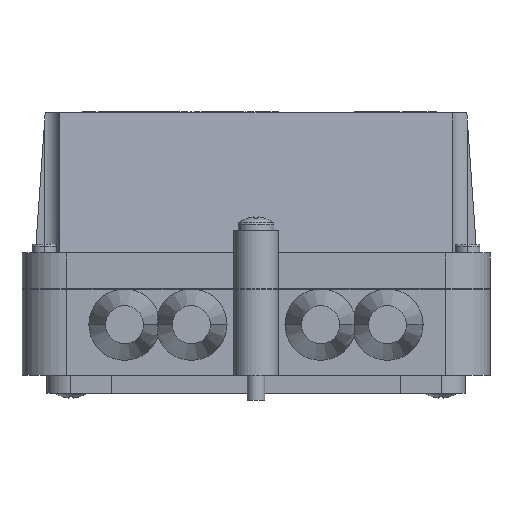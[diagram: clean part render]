
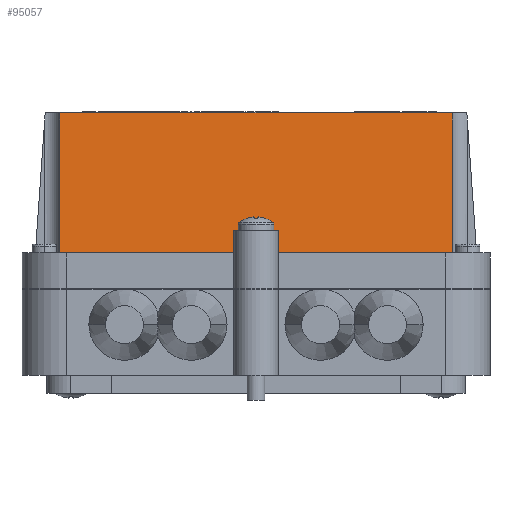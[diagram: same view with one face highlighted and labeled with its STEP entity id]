
A CAD part, front view. The second image highlights one B-rep face of the part: STEP entity #95057.
In plain terms, the highlighted planar face has unit normal (0, -0.998, 0.07) as drawn and (0, 0.07, 0.998) by its records, which use the part's own axes.
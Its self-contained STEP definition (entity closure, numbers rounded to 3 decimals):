
#891 = ORIENTED_EDGE ( 'NONE', *, *, #8117, .T. ) ;
#5105 = CARTESIAN_POINT ( 'NONE',  ( -5., 27.5, 54.5 ) ) ;
#5286 = LINE ( 'NONE', #164670, #119606 ) ;
#8117 = EDGE_CURVE ( 'NONE', #17711, #123616, #129327, .T. ) ;
#10150 = VERTEX_POINT ( 'NONE', #106241 ) ;
#11284 = VECTOR ( 'NONE', #70850, 1000. ) ;
#16418 = EDGE_CURVE ( 'NONE', #10150, #179173, #55043, .T. ) ;
#16756 = LINE ( 'NONE', #130831, #152606 ) ;
#17711 = VERTEX_POINT ( 'NONE', #79082 ) ;
#18702 = CARTESIAN_POINT ( 'NONE',  ( 44.006, 59., 52.297 ) ) ;
#19698 = CARTESIAN_POINT ( 'NONE',  ( -44.002, 58.035, 52.365 ) ) ;
#19998 = EDGE_CURVE ( 'NONE', #126766, #179173, #52845, .T. ) ;
#20488 = VECTOR ( 'NONE', #180609, 1000. ) ;
#23594 = DIRECTION ( 'NONE',  ( 0., 0.998, -0.07 ) ) ;
#24100 = CARTESIAN_POINT ( 'NONE',  ( 44.006, 59., 52.297 ) ) ;
#24852 = DIRECTION ( 'NONE',  ( 0., 0.998, -0.07 ) ) ;
#28981 = PLANE ( 'NONE',  #30655 ) ;
#29998 = DIRECTION ( 'NONE',  ( 1., 0., 0. ) ) ;
#30655 = AXIS2_PLACEMENT_3D ( 'NONE', #46825, #174499, #29998 ) ;
#31571 = ORIENTED_EDGE ( 'NONE', *, *, #53162, .F. ) ;
#38041 = CARTESIAN_POINT ( 'NONE',  ( 5., 32.5, 54.15 ) ) ;
#45433 = EDGE_CURVE ( 'NONE', #133685, #173323, #99676, .T. ) ;
#46825 = CARTESIAN_POINT ( 'NONE',  ( -49.5, 27.5, 54.5 ) ) ;
#52845 = LINE ( 'NONE', #104594, #11284 ) ;
#53162 = EDGE_CURVE ( 'NONE', #133685, #181239, #16756, .T. ) ;
#55043 = LINE ( 'NONE', #132154, #20488 ) ;
#57970 = CARTESIAN_POINT ( 'NONE',  ( 44., 57.068, 52.432 ) ) ;
#58705 = CARTESIAN_POINT ( 'NONE',  ( 5., 27.5, 54.5 ) ) ;
#69862 = DIRECTION ( 'NONE',  ( 0., -0.998, 0.07 ) ) ;
#70850 = DIRECTION ( 'NONE',  ( 0., -0.998, 0.07 ) ) ;
#73698 = DIRECTION ( 'NONE',  ( 1., 0., 0. ) ) ;
#75063 = CARTESIAN_POINT ( 'NONE',  ( -5., 32.5, 54.15 ) ) ;
#79082 = CARTESIAN_POINT ( 'NONE',  ( 44., 27.5, 54.5 ) ) ;
#80538 = CARTESIAN_POINT ( 'NONE',  ( 5., 27.5, 54.5 ) ) ;
#89606 = LINE ( 'NONE', #152778, #109046 ) ;
#91306 = VECTOR ( 'NONE', #24852, 1000. ) ;
#95057 = ADVANCED_FACE ( 'NONE', ( #175570 ), #28981, .T. ) ;
#99576 = EDGE_LOOP ( 'NONE', ( #891, #133360, #31571, #142555, #181928, #174209, #194346, #128149, #103917, #123776 ) ) ;
#99676 =( BOUNDED_CURVE ( )  B_SPLINE_CURVE ( 3, ( #164262, #19698, #193877, #207636 ),
 .UNSPECIFIED., .F., .F. ) 
 B_SPLINE_CURVE_WITH_KNOTS ( ( 4, 4 ),
 ( 1.513, 1.571 ),
 .UNSPECIFIED. ) 
 CURVE ( )  GEOMETRIC_REPRESENTATION_ITEM ( )  RATIONAL_B_SPLINE_CURVE ( ( 1., 1., 1., 1. ) ) 
 REPRESENTATION_ITEM ( '' )  );
#102096 = CARTESIAN_POINT ( 'NONE',  ( -44., 56.101, 52.5 ) ) ;
#103917 = ORIENTED_EDGE ( 'NONE', *, *, #169069, .F. ) ;
#104594 = CARTESIAN_POINT ( 'NONE',  ( -5., 27.5, 54.5 ) ) ;
#106241 = CARTESIAN_POINT ( 'NONE',  ( -44., 27.5, 54.5 ) ) ;
#109046 = VECTOR ( 'NONE', #73698, 1000. ) ;
#119606 = VECTOR ( 'NONE', #69862, 1000. ) ;
#120229 = CARTESIAN_POINT ( 'NONE',  ( 44.002, 58.035, 52.365 ) ) ;
#121153 =( BOUNDED_CURVE ( )  B_SPLINE_CURVE ( 3, ( #139165, #57970, #120229, #24100 ),
 .UNSPECIFIED., .F., .F. ) 
 B_SPLINE_CURVE_WITH_KNOTS ( ( 4, 4 ),
 ( 4.712, 4.77 ),
 .UNSPECIFIED. ) 
 CURVE ( )  GEOMETRIC_REPRESENTATION_ITEM ( )  RATIONAL_B_SPLINE_CURVE ( ( 1., 1., 1., 1. ) ) 
 REPRESENTATION_ITEM ( '' )  );
#123616 = VERTEX_POINT ( 'NONE', #148139 ) ;
#123776 = ORIENTED_EDGE ( 'NONE', *, *, #130549, .T. ) ;
#126766 = VERTEX_POINT ( 'NONE', #75063 ) ;
#127435 = DIRECTION ( 'NONE',  ( 1., 0., 0. ) ) ;
#128149 = ORIENTED_EDGE ( 'NONE', *, *, #199578, .T. ) ;
#129327 = LINE ( 'NONE', #169214, #181775 ) ;
#129533 = LINE ( 'NONE', #159038, #192333 ) ;
#130549 = EDGE_CURVE ( 'NONE', #146339, #17711, #89606, .T. ) ;
#130831 = CARTESIAN_POINT ( 'NONE',  ( 49.5, 59., 52.297 ) ) ;
#132154 = CARTESIAN_POINT ( 'NONE',  ( -49.5, 27.5, 54.5 ) ) ;
#133360 = ORIENTED_EDGE ( 'NONE', *, *, #160308, .T. ) ;
#133685 = VERTEX_POINT ( 'NONE', #148182 ) ;
#136607 = VERTEX_POINT ( 'NONE', #38041 ) ;
#139165 = CARTESIAN_POINT ( 'NONE',  ( 44., 56.101, 52.5 ) ) ;
#142555 = ORIENTED_EDGE ( 'NONE', *, *, #45433, .T. ) ;
#144530 = DIRECTION ( 'NONE',  ( 1., 0., 0. ) ) ;
#146339 = VERTEX_POINT ( 'NONE', #80538 ) ;
#148139 = CARTESIAN_POINT ( 'NONE',  ( 44., 56.101, 52.5 ) ) ;
#148182 = CARTESIAN_POINT ( 'NONE',  ( -44.006, 59., 52.297 ) ) ;
#152606 = VECTOR ( 'NONE', #144530, 1000. ) ;
#152778 = CARTESIAN_POINT ( 'NONE',  ( -49.5, 27.5, 54.5 ) ) ;
#152927 = EDGE_CURVE ( 'NONE', #173323, #10150, #5286, .T. ) ;
#159038 = CARTESIAN_POINT ( 'NONE',  ( -49.5, 32.5, 54.15 ) ) ;
#160308 = EDGE_CURVE ( 'NONE', #123616, #181239, #121153, .T. ) ;
#164262 = CARTESIAN_POINT ( 'NONE',  ( -44.006, 59., 52.297 ) ) ;
#164670 = CARTESIAN_POINT ( 'NONE',  ( -44., 27.5, 54.5 ) ) ;
#169069 = EDGE_CURVE ( 'NONE', #146339, #136607, #198983, .T. ) ;
#169214 = CARTESIAN_POINT ( 'NONE',  ( 44., 27.5, 54.5 ) ) ;
#173323 = VERTEX_POINT ( 'NONE', #102096 ) ;
#174209 = ORIENTED_EDGE ( 'NONE', *, *, #16418, .T. ) ;
#174499 = DIRECTION ( 'NONE',  ( 0., 0.07, 0.998 ) ) ;
#175570 = FACE_OUTER_BOUND ( 'NONE', #99576, .T. ) ;
#179173 = VERTEX_POINT ( 'NONE', #5105 ) ;
#180609 = DIRECTION ( 'NONE',  ( 1., 0., 0. ) ) ;
#181239 = VERTEX_POINT ( 'NONE', #18702 ) ;
#181775 = VECTOR ( 'NONE', #23594, 1000. ) ;
#181928 = ORIENTED_EDGE ( 'NONE', *, *, #152927, .T. ) ;
#192333 = VECTOR ( 'NONE', #127435, 1000. ) ;
#193877 = CARTESIAN_POINT ( 'NONE',  ( -44., 57.068, 52.432 ) ) ;
#194346 = ORIENTED_EDGE ( 'NONE', *, *, #19998, .F. ) ;
#198983 = LINE ( 'NONE', #58705, #91306 ) ;
#199578 = EDGE_CURVE ( 'NONE', #126766, #136607, #129533, .T. ) ;
#207636 = CARTESIAN_POINT ( 'NONE',  ( -44., 56.101, 52.5 ) ) ;
